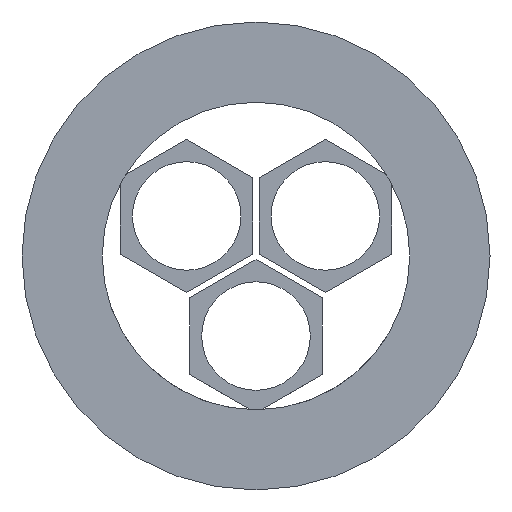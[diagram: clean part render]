
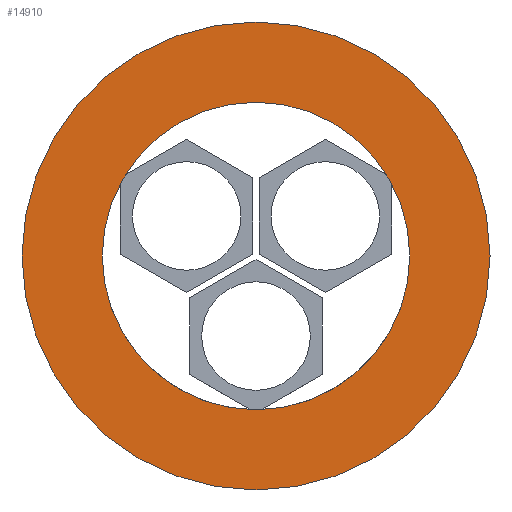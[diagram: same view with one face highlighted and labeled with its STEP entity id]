
A CAD part, front view. The second image highlights one B-rep face of the part: STEP entity #14910.
In plain terms, the highlighted planar face has unit normal (0, -1, 0).
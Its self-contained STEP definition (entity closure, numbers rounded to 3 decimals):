
#1420=CARTESIAN_POINT('',(4.844,187.195,
0.));
#1430=VERTEX_POINT('',#1420);
#1650=CARTESIAN_POINT('',(55.844,187.195,0.));
#1660=VERTEX_POINT('',#1650);
#1690=CARTESIAN_POINT('',(30.344,187.195,0.));
#1700=DIRECTION('',(0.,1.,0.));
#1710=DIRECTION('',(1.,0.,0.));
#1720=AXIS2_PLACEMENT_3D('',#1690,#1700,#1710);
#1730=CIRCLE('',#1720,25.5);
#1740=EDGE_CURVE('',#1660,#1430,#1730,.T.);
#14530=CARTESIAN_POINT('',(-8.456,187.195,0.));
#14540=VERTEX_POINT('',#14530);
#14570=CARTESIAN_POINT('',(30.344,187.195,0.));
#14580=DIRECTION('',(0.,-1.,0.));
#14590=DIRECTION('',(1.,0.,0.));
#14600=AXIS2_PLACEMENT_3D('',#14570,#14580,#14590);
#14610=CIRCLE('',#14600,38.8);
#14620=CARTESIAN_POINT('',(69.144,187.195,
0.));
#14630=VERTEX_POINT('',#14620);
#14640=EDGE_CURVE('',#14540,#14630,#14610,.T.);
#14760=CARTESIAN_POINT('',(49.744,187.195,
0.));
#14770=DIRECTION('',(0.,-1.,0.));
#14780=DIRECTION('',(1.,0.,0.));
#14790=AXIS2_PLACEMENT_3D('',#14760,#14770,#14780);
#14800=PLANE('',#14790);
#14810=EDGE_CURVE('',#14630,#14540,#14610,.T.);
#14820=ORIENTED_EDGE('',*,*,#14810,.T.);
#14830=ORIENTED_EDGE('',*,*,#14640,.T.);
#14840=EDGE_LOOP('',(#14830,#14820));
#14850=FACE_OUTER_BOUND('',#14840,.T.);
#14860=EDGE_CURVE('',#1430,#1660,#1730,.T.);
#14870=ORIENTED_EDGE('',*,*,#14860,.T.);
#14880=ORIENTED_EDGE('',*,*,#1740,.T.);
#14890=EDGE_LOOP('',(#14880,#14870));
#14900=FACE_BOUND('',#14890,.T.);
#14910=ADVANCED_FACE('',(#14850,#14900),#14800,.T.);
